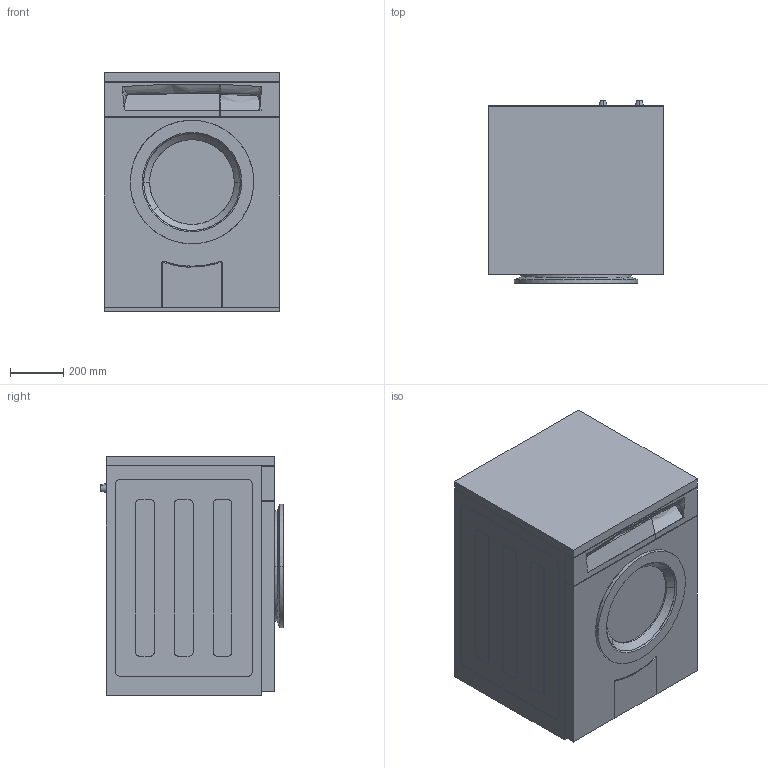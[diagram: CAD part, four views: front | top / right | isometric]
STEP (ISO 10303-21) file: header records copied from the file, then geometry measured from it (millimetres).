
FILE_DESCRIPTION(/* description */ (''),/* implementation_level */ '2;1');
FILE_NAME(/* name */ 'UW2TCL',/* time_stamp */ '2025-12-19T11:42:02+01:00',/* author */ (''),/* organization */ (''),/* preprocessor_version */ 'ST-DEVELOPER v16.5',/* originating_system */ 'Rhino 7.38',/* authorisation */ '');
FILE_SCHEMA (('AUTOMOTIVE_DESIGN'));
Length unit declared in the file: millimetre
Products named in the file (1): Document
Bounding box: 660 x 687 x 900 mm (x, y, z)
Volume: 284232545.7 mm3; surface area: 8221270.8 mm2
Topology: 13 solids, 14 shells, 206 faces, 494 edges, 323 vertices
Faces by surface type: plane 105, cylinder 58, bspline 43
Entity records: 6896 total; most frequent: CARTESIAN_POINT 3419, ORIENTED_EDGE 986, EDGE_CURVE 494, B_SPLINE_CURVE_WITH_KNOTS 338, VERTEX_POINT 323, EDGE_LOOP 222, ADVANCED_FACE 206, FACE_OUTER_BOUND 206
